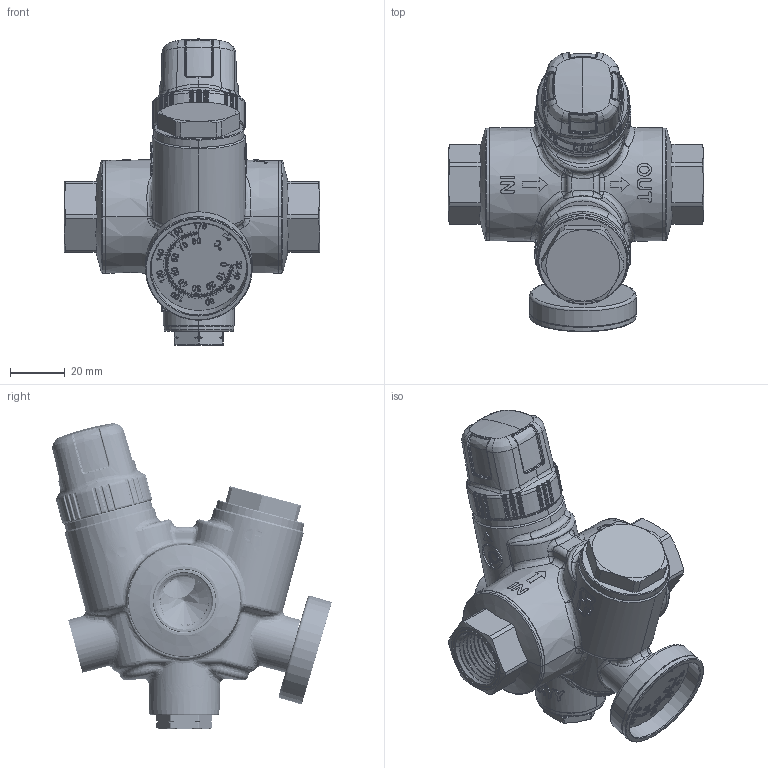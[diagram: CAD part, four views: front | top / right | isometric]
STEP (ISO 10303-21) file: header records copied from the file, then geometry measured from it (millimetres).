
FILE_DESCRIPTION(('Open CASCADE Model'),'2;1');
FILE_NAME('Open CASCADE Shape Model','2022-01-26T10:01:23',('Author'),( 'Open CASCADE'),'Open CASCADE STEP processor 7.3','Open CASCADE 7.3' ,'Unknown');
FILE_SCHEMA(('AUTOMOTIVE_DESIGN { 1 0 10303 214 1 1 1 1 }'));
Length unit declared in the file: millimetre
Products named in the file (20): Open CASCADE STEP translator 7.3 1; Open CASCADE STEP translator 7.3 1.1; Open CASCADE STEP translator 7.3 1.2; Open CASCADE STEP translator 7.3 1.3; Open CASCADE STEP translator 7.3 1.4; Open CASCADE STEP translator 7.3 1.5; Open CASCADE STEP translator 7.3 1.6; Open CASCADE STEP translator 7.3 1.7; Open CASCADE STEP translator 7.3 1.8; Open CASCADE STEP translator 7.3 1.9; Open CASCADE STEP translator 7.3 1.10; Open CASCADE STEP translator 7.3 1.11; Open CASCADE STEP translator 7.3 1.12; Open CASCADE STEP translator 7.3 1.13; Open CASCADE STEP translator 7.3 1.14; Open CASCADE STEP translator 7.3 1.15; Open CASCADE STEP translator 7.3 1.16; Open CASCADE STEP translator 7.3 1.17; Open CASCADE STEP translator 7.3 1.18; Open CASCADE STEP translator 7.3 1.19
Assembly tree (19 placements, depth 2):
  Open CASCADE STEP translator 7.3 1
    Open CASCADE STEP translator 7.3 1.1
    Open CASCADE STEP translator 7.3 1.2
    Open CASCADE STEP translator 7.3 1.3
    Open CASCADE STEP translator 7.3 1.4
    Open CASCADE STEP translator 7.3 1.5
    Open CASCADE STEP translator 7.3 1.6
    Open CASCADE STEP translator 7.3 1.7
    Open CASCADE STEP translator 7.3 1.8
    Open CASCADE STEP translator 7.3 1.9
    Open CASCADE STEP translator 7.3 1.10
    Open CASCADE STEP translator 7.3 1.11
    Open CASCADE STEP translator 7.3 1.12
    Open CASCADE STEP translator 7.3 1.13
    Open CASCADE STEP translator 7.3 1.14
    Open CASCADE STEP translator 7.3 1.15
    Open CASCADE STEP translator 7.3 1.16
    Open CASCADE STEP translator 7.3 1.17
    Open CASCADE STEP translator 7.3 1.18
    Open CASCADE STEP translator 7.3 1.19
Bounding box: 93.4 x 102.01 x 111.79 mm (x, y, z)
Volume: 134202.2 mm3; surface area: 88445.1 mm2
Topology: 19 solids, 20 shells, 4580 faces, 11809 edges, 7440 vertices
Faces by surface type: extrusion 1173, plane 1081, cylinder 962, bspline 558, cone 411, torus 295, sphere 52, revolution 48
Entity records: 498814 total; most frequent: CARTESIAN_POINT 292155, DIRECTION 27919, ORIENTED_EDGE 23582, PCURVE 23582, DEFINITIONAL_REPRESENTATION 23582, B_SPLINE_CURVE_WITH_KNOTS 18000, VECTOR 15666, LINE 14493
